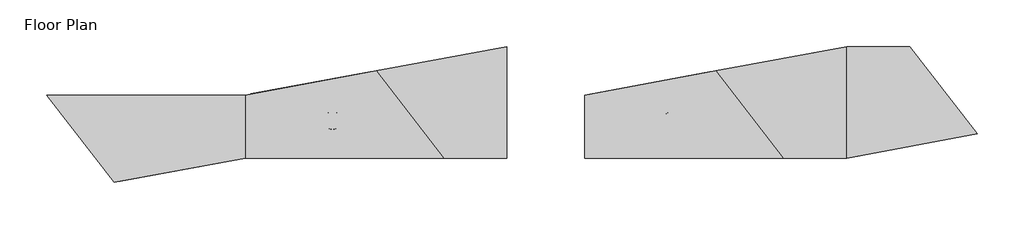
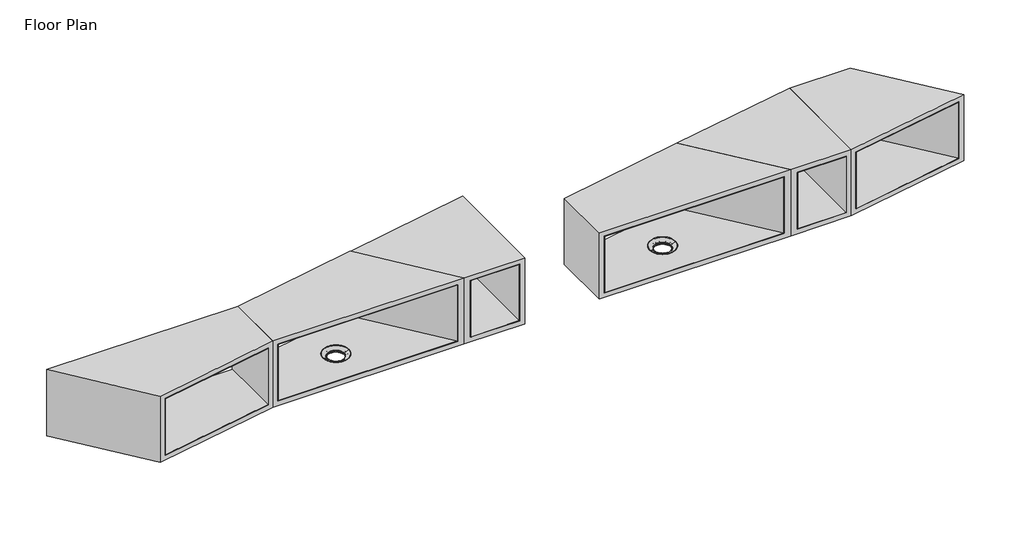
# One storey, incomplete: 6 furniture elements.
"""IFC4 building model written with IfcOpenShell, lengths in millimetres."""

from ifc_helpers import new_model, si_unit, origin, place, context, project, spatial, transform, mapped, element, save
from components import furniture_4ca54182, furniture_f5551eca, furniture_ad41b52c

model = new_model("IFC4")

# Units and contexts
model_context = context("Model", 3, world=origin())
ifc_project = project(units=[si_unit("LENGTHUNIT", "METRE", prefix="MILLI")], contexts=[model_context])

# Site, building, storey
site = spatial("IfcSite", under=ifc_project)
building = spatial("IfcBuilding", under=site)
storey = spatial("IfcBuildingStorey", under=building, Name="Floor Plan", Elevation=900.0)

# Furniture
placement = place(None, origin())
furniture_shape = furniture_4ca54182(model_context)
element("IfcFurniture", 1, ObjectType="Steelcase Coalesse - Sebastopol - Table - Large : 16'' H", at=placement, inside=storey, context=model_context, shape_type="MappedRepresentation", body=[
    mapped(furniture_shape, transform((-3029.0645542, -26149.845079, 900.0), x_axis=(-1.0, 0.0, 0.0), y_axis=(0.0, -1.0, 0.0), z_axis=(0.0, 0.0, 1.0))),
])
furniture_2_shape = furniture_f5551eca(model_context)
element("IfcFurniture", 2, ObjectType="Steelcase Coalesse - Sebastopol - Table - Large : 16'' H - With Gromment", at=placement, inside=storey, context=model_context, shape_type="MappedRepresentation", body=[
    mapped(furniture_2_shape, transform((-946.2645057, -26479.8978912, 900.0), x_axis=(1.0000000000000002, 0.0, 0.0), y_axis=(0.0, 1.0000000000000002, 0.0), z_axis=(0.0, 0.0, 1.0))),
])
element("IfcFurniture", 3, ObjectType="Steelcase Coalesse - Sebastopol - Table - Large : 16'' H - With Gromment", at=placement, inside=storey, context=model_context, shape_type="MappedRepresentation", body=[
    mapped(furniture_2_shape, transform((832.2224541, -26480.312005, 900.0), x_axis=(1.0, 0.0, 0.0), y_axis=(0.0, 1.0, 0.0), z_axis=(0.0, 0.0, 1.0))),
])
furniture_3_shape = furniture_ad41b52c(model_context)
element("IfcFurniture", 4, ObjectType="Steelcase Coalesse - Sebastopol - Table - Small : 16'' H", at=placement, inside=storey, context=model_context, shape_type="MappedRepresentation", body=[
    mapped(furniture_3_shape, transform((-616.0645542, -25895.6979033, 900.0), x_axis=(0.9999999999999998, 0.0, 0.0), y_axis=(0.0, 0.9999999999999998, 0.0), z_axis=(0.0, 0.0, 1.0))),
])
element("IfcFurniture", 5, ObjectType="Steelcase Coalesse - Sebastopol - Table - Small : 16'' H", at=placement, inside=storey, context=model_context, shape_type="MappedRepresentation", body=[
    mapped(furniture_3_shape, transform((1163.6908427, -25895.6979033, 900.0), x_axis=(1.0, 0.0, 0.0), y_axis=(0.0, 1.0, 0.0), z_axis=(0.0, 0.0, 1.0))),
])
element("IfcFurniture", 6, ObjectType="Steelcase Coalesse - Sebastopol - Table - Small : 16'' H", at=placement, inside=storey, context=model_context, shape_type="MappedRepresentation", body=[
    mapped(furniture_3_shape, transform((1163.6908427, -26480.045079, 900.0), x_axis=(-1.0000000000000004, 0.0, 0.0), y_axis=(0.0, -1.0000000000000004, 0.0), z_axis=(0.0, 0.0, 1.0))),
])

save(model, "model.ifc")
